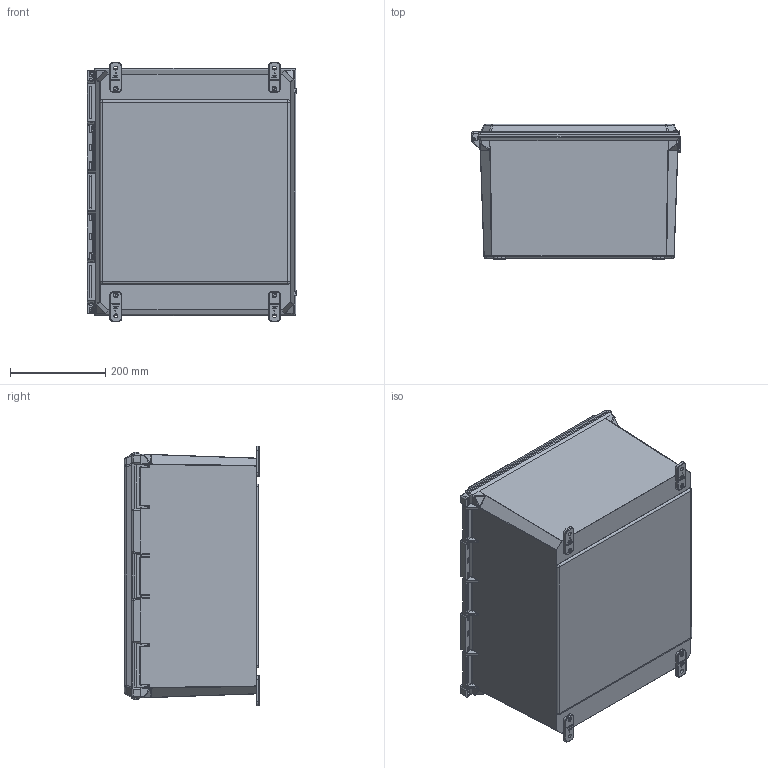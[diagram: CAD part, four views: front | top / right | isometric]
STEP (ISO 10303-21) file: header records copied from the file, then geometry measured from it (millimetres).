
FILE_DESCRIPTION (( 'STEP AP203' ), '1' );
FILE_NAME ('PJU201610H.step', '2014-07-14T16:02:22', ( '' ), ( '' ), 'SwSTEP 2.0', 'SolidWorks 2014', '' );
FILE_SCHEMA (( 'CONFIG_CONTROL_DESIGN' ));
Length unit declared in the file: inch
Products named in the file (11): 2421001_part; PJU201610H; 70-006ORING; 55-103275316_PreviewCfg; 2428001; 55-103212; 70-60827-1; 55-1032516_PreviewCfg; 70-HPIN20316; 2419001_box; AMU2060H_default
Assembly tree (21 placements, depth 3):
  PJU201610H
    AMU2060H_default
      2419001_box
      2421001_part
      70-006ORING  x2
      55-103275316_PreviewCfg  x2
      2428001  x4
      55-103212  x4
      70-60827-1
      55-1032516_PreviewCfg  x4
      70-HPIN20316
Bounding box: 440.81 x 284.66 x 546.07 mm (x, y, z)
Volume: 4547227.1 mm3; surface area: 2245754.1 mm2
Topology: 20 solids, 20 shells, 3709 faces, 9284 edges, 5903 vertices
Faces by surface type: plane 1965, bspline 695, cylinder 651, cone 192, torus 136, sphere 70
Entity records: 117490 total; most frequent: CARTESIAN_POINT 48814, ORIENTED_EDGE 15096, DIRECTION 11960, EDGE_CURVE 7548, VERTEX_POINT 4783, LINE 4694, VECTOR 4694, AXIS2_PLACEMENT_3D 3633
